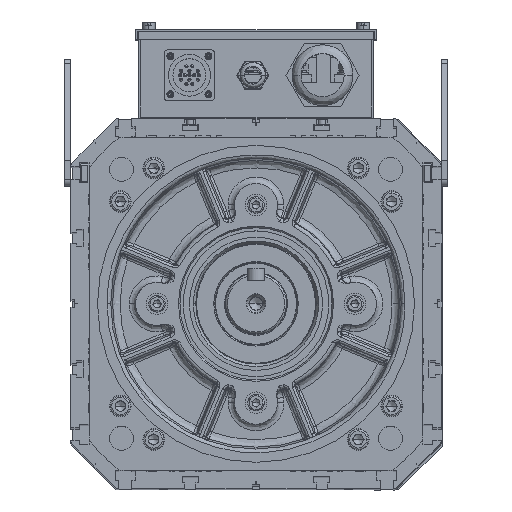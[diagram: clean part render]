
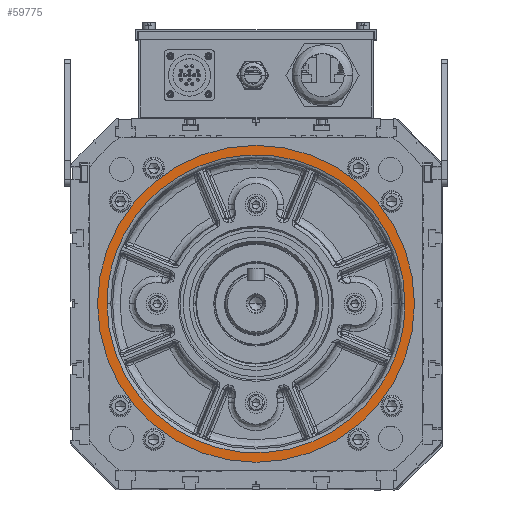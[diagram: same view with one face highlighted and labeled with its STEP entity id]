
A CAD part, top view. The second image highlights one B-rep face of the part: STEP entity #59775.
In plain terms, the highlighted planar face has unit normal (0, 0, 1) as drawn and (0, 0, -1) by its records, which use the part's own axes.
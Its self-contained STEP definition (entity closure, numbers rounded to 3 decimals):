
#1243 =( BOUNDED_CURVE ( )  B_SPLINE_CURVE ( 3, ( #8499, #91800, #129079, #58149 ),
 .UNSPECIFIED., .F., .F. ) 
 B_SPLINE_CURVE_WITH_KNOTS ( ( 4, 4 ),
 ( 0., 1. ),
 .UNSPECIFIED. ) 
 CURVE ( )  GEOMETRIC_REPRESENTATION_ITEM ( )  RATIONAL_B_SPLINE_CURVE ( ( 1., 0.333, 0.333, 1. ) ) 
 REPRESENTATION_ITEM ( '' )  );
#8499 = CARTESIAN_POINT ( 'NONE',  ( 175.72, 5.856, 132.5 ) ) ;
#11067 = DIRECTION ( 'NONE',  ( -1., 0., 0. ) ) ;
#11518 = EDGE_CURVE ( 'NONE', #149435, #57801, #105019, .T. ) ;
#21921 = CARTESIAN_POINT ( 'NONE',  ( 58.202, 5.856, 132.5 ) ) ;
#22291 = PLANE ( 'NONE',  #69752 ) ;
#25752 = CARTESIAN_POINT ( 'NONE',  ( -59.315, 5.856, 132.5 ) ) ;
#27064 = EDGE_CURVE ( 'NONE', #85474, #51484, #1243, .T. ) ;
#28682 = CARTESIAN_POINT ( 'NONE',  ( 58.202, 5.856, 132.5 ) ) ;
#36259 = DIRECTION ( 'NONE',  ( 1., 0., 0. ) ) ;
#45082 = EDGE_LOOP ( 'NONE', ( #151714, #132966 ) ) ;
#48190 = CARTESIAN_POINT ( 'NONE',  ( 58.202, 130.856, 132.5 ) ) ;
#51484 = VERTEX_POINT ( 'NONE', #82807 ) ;
#54038 = DIRECTION ( 'NONE',  ( -1., 0., 0. ) ) ;
#55993 = AXIS2_PLACEMENT_3D ( 'NONE', #28682, #65933, #54038 ) ;
#57801 = VERTEX_POINT ( 'NONE', #113014 ) ;
#58149 = CARTESIAN_POINT ( 'NONE',  ( -59.315, 5.856, 132.5 ) ) ;
#58658 = DIRECTION ( 'NONE',  ( 0., 0., 1. ) ) ;
#59775 = ADVANCED_FACE ( 'NONE', ( #69533, #65820 ), #22291, .F. ) ;
#60917 = EDGE_LOOP ( 'NONE', ( #100097, #70499 ) ) ;
#65820 = FACE_BOUND ( 'NONE', #45082, .T. ) ;
#65933 = DIRECTION ( 'NONE',  ( 0., 0., 1. ) ) ;
#69533 = FACE_OUTER_BOUND ( 'NONE', #60917, .T. ) ;
#69752 = AXIS2_PLACEMENT_3D ( 'NONE', #48190, #106586, #36259 ) ;
#70499 = ORIENTED_EDGE ( 'NONE', *, *, #76821, .F. ) ;
#73379 = CARTESIAN_POINT ( 'NONE',  ( 175.72, 5.856, 132.5 ) ) ;
#73892 = CARTESIAN_POINT ( 'NONE',  ( 175.72, 240.89, 132.5 ) ) ;
#76821 = EDGE_CURVE ( 'NONE', #57801, #149435, #132854, .T. ) ;
#82807 = CARTESIAN_POINT ( 'NONE',  ( -59.315, 5.856, 132.5 ) ) ;
#85246 = CARTESIAN_POINT ( 'NONE',  ( -59.315, 240.89, 132.5 ) ) ;
#85474 = VERTEX_POINT ( 'NONE', #145895 ) ;
#91800 = CARTESIAN_POINT ( 'NONE',  ( 175.72, -229.179, 132.5 ) ) ;
#95489 = AXIS2_PLACEMENT_3D ( 'NONE', #21921, #58658, #11067 ) ;
#100097 = ORIENTED_EDGE ( 'NONE', *, *, #11518, .F. ) ;
#105019 = CIRCLE ( 'NONE', #55993, 125. ) ;
#106586 = DIRECTION ( 'NONE',  ( 0., 0., 1. ) ) ;
#113014 = CARTESIAN_POINT ( 'NONE',  ( 183.202, 5.856, 132.5 ) ) ;
#129079 = CARTESIAN_POINT ( 'NONE',  ( -59.315, -229.179, 132.5 ) ) ;
#132140 =( BOUNDED_CURVE ( )  B_SPLINE_CURVE ( 3, ( #25752, #85246, #73892, #73379 ),
 .UNSPECIFIED., .F., .F. ) 
 B_SPLINE_CURVE_WITH_KNOTS ( ( 4, 4 ),
 ( 0., 1. ),
 .UNSPECIFIED. ) 
 CURVE ( )  GEOMETRIC_REPRESENTATION_ITEM ( )  RATIONAL_B_SPLINE_CURVE ( ( 1., 0.333, 0.333, 1. ) ) 
 REPRESENTATION_ITEM ( '' )  );
#132854 = CIRCLE ( 'NONE', #95489, 125. ) ;
#132966 = ORIENTED_EDGE ( 'NONE', *, *, #144250, .F. ) ;
#135937 = CARTESIAN_POINT ( 'NONE',  ( -66.798, 5.856, 132.5 ) ) ;
#144250 = EDGE_CURVE ( 'NONE', #51484, #85474, #132140, .T. ) ;
#145895 = CARTESIAN_POINT ( 'NONE',  ( 175.72, 5.856, 132.5 ) ) ;
#149435 = VERTEX_POINT ( 'NONE', #135937 ) ;
#151714 = ORIENTED_EDGE ( 'NONE', *, *, #27064, .F. ) ;
